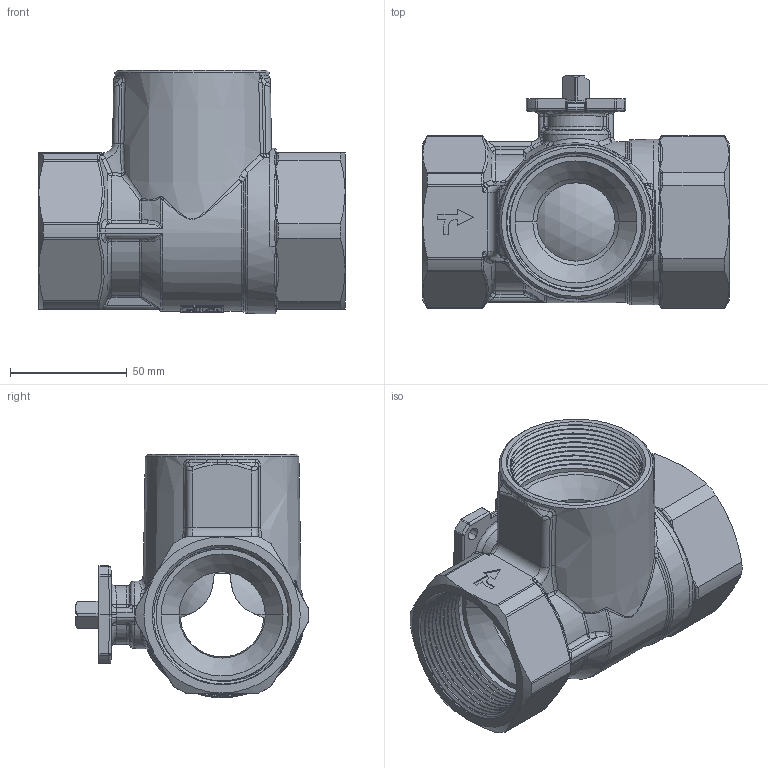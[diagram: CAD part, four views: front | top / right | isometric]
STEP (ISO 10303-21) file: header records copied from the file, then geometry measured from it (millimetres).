
FILE_DESCRIPTION((''),'2;1');
FILE_NAME('H980T1050_1527_SW0001','2015-05-21T',('64ciro'),('Vir spa'),'PRO/ENGINEER BY PARAMETRIC TECHNOLOGY CORPORATION, 2010280','PRO/ENGINEER BY PARAMETRIC TECHNOLOGY CORPORATION, 2010280','');
FILE_SCHEMA(('CONFIG_CONTROL_DESIGN'));
Products named in the file (1): H980T1050_1527_SW0001
Bounding box: 131.4 x 99.79 x 104.4 mm (x, y, z)
Volume: 287568.5 mm3; surface area: 112905.2 mm2
Topology: 1 solids, 1 shells, 1318 faces, 3353 edges, 2041 vertices
Faces by surface type: plane 570, cylinder 280, bspline 253, cone 91, torus 83, sphere 39, extrusion 2
Entity records: 64045 total; most frequent: CARTESIAN_POINT 34601, ORIENTED_EDGE 6610, DIRECTION 5377, EDGE_CURVE 3305, VERTEX_POINT 2041, AXIS2_PLACEMENT_3D 1811, VECTOR 1755, LINE 1753
